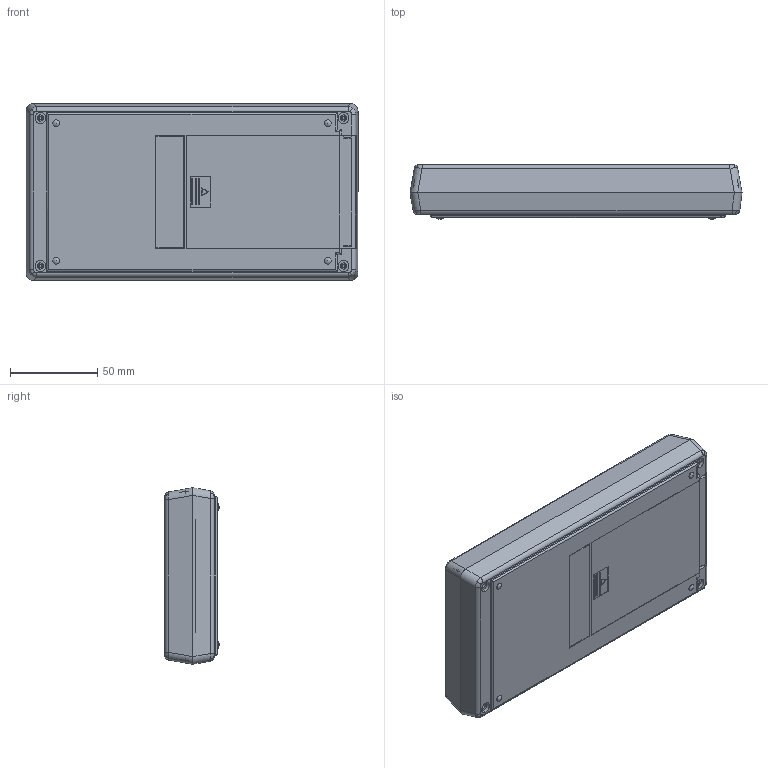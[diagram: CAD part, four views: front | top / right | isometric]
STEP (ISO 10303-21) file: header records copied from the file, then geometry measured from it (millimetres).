
FILE_DESCRIPTION (( 'STEP AP214' ), '1' );
FILE_NAME ('101-41-6A-R.STEP', '2019-12-01T01:28:21', ( 'Rudy' ), ( '' ), 'SwSTEP 2.0', 'SolidWorks 2014', '' );
FILE_SCHEMA (( 'AUTOMOTIVE_DESIGN' ));
Length unit declared in the file: millimetre
Products named in the file (4): 6AAdoor; 100-04-LCD Top; 100-01 BOT-6AA; 101-41-6A-R
Assembly tree (3 placements, depth 2):
  101-41-6A-R
    100-01 BOT-6AA
    100-04-LCD Top
    6AAdoor
Bounding box: 190.6 x 31.3 x 101.4 mm (x, y, z)
Volume: 117781.8 mm3; surface area: 131379.9 mm2
Topology: 3 solids, 3 shells, 989 faces, 2705 edges, 1717 vertices
Faces by surface type: plane 679, cylinder 224, bspline 44, cone 26, torus 12, sphere 4
Entity records: 32134 total; most frequent: CARTESIAN_POINT 7558, ORIENTED_EDGE 5332, DIRECTION 4724, EDGE_CURVE 2666, LINE 2070, VECTOR 2070, VERTEX_POINT 1709, AXIS2_PLACEMENT_3D 1327
